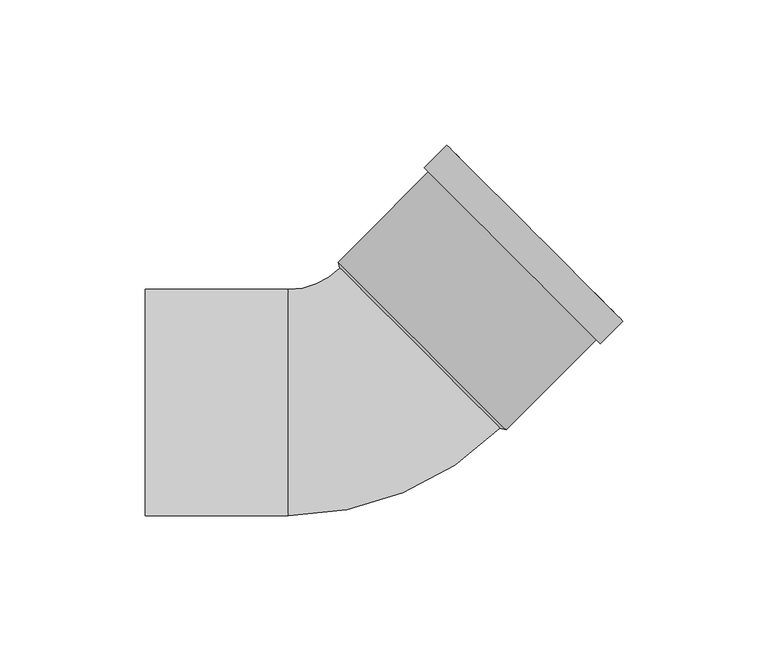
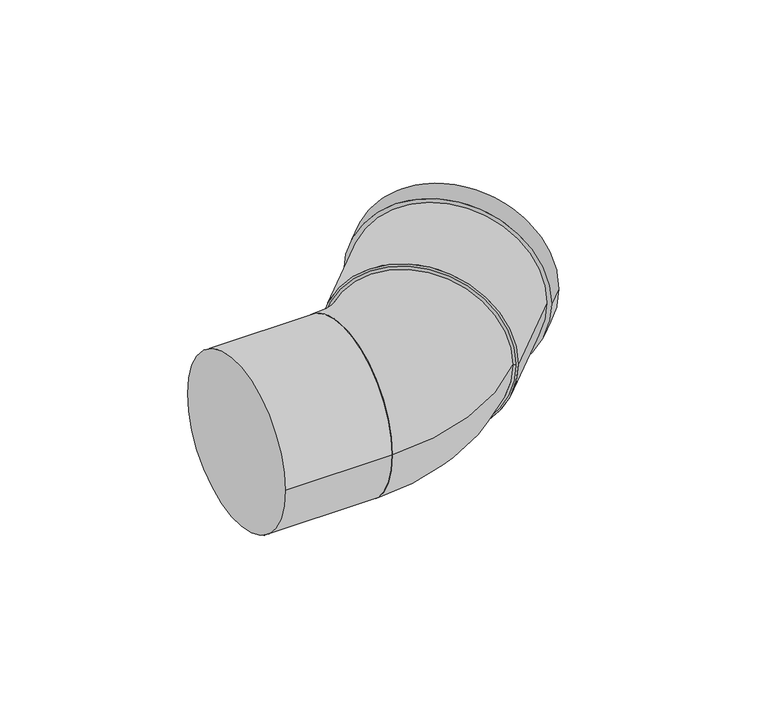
"""IFC4 building model written with IfcOpenShell, lengths in millimetres: pipe fitting geometry, Superdrain SKB Bend : Superdrain SKB Bend."""

from ifc_helpers import new_model, si_unit, point, frame, origin, origin_2d, place, context, project, spatial, polyline, circle_curve, ellipse_curve, trimmed, segment, composite_curve, outline, extrude, source, transform, mapped, element, save
from ifc_brep_helpers import plane_surface, revolved_surface, advanced_brep


def pipe_fitting_d92faa6e(model_context):
    return source(origin(), model_context, "Body", "SolidModel", [
        advanced_brep(
        [(46.3862048, -8.7681241, 0.0), (-8.7681241, 46.3862048, 0.0), (-26.6, -39.0, 0.0), (-26.6, 39.0, 0.0)],
        [
            (0, 1, circle_curve(frame((18.8090404, 18.8090404, 0.0), z_axis=(0.7071067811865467, 0.7071067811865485, 0.0), x_axis=(-0.7071067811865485, 0.7071067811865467, 0.0)), 39.0)),
            (1, 0, circle_curve(frame((18.8090404, 18.8090404, 0.0), z_axis=(0.7071067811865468, 0.7071067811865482, 0.0), x_axis=(-0.7071067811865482, 0.7071067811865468, 0.0)), 39.0)),
            (2, 3, circle_curve(frame((-26.6, 0.0, 0.0), z_axis=(-1.0, 0.0, 0.0), x_axis=(0.0, 1.0, 0.0)), 39.0)),
            (3, 2, circle_curve(frame((-26.6, 0.0, 0.0), z_axis=(-1.0, 0.0, 0.0), x_axis=(0.0, 1.0, 0.0)), 39.0)),
            (3, 1, circle_curve(frame((-26.6, 64.2180808, 0.0), z_axis=(0.0, 0.0, 1.0), x_axis=(1.0, 0.0, 0.0)), 25.2180808)),
            (0, 2, circle_curve(frame((-26.6, 64.2180808, 0.0), z_axis=(0.0, 0.0, -1.0), x_axis=(1.0, 0.0, 0.0)), 103.2180808)),
        ],
        [
            plane_surface(frame((18.8090404, 18.8090404, 0.0), z_axis=(0.7071067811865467, 0.7071067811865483, 0.0), x_axis=(0.0, 0.0, -1.0))),
            plane_surface(frame((-26.6, 0.0, 0.0), z_axis=(-1.0, 0.0, 0.0), x_axis=(0.0, 0.0, -1.0))),
            revolved_surface(trimmed(ellipse_curve(frame((37.6180808, 64.2180808, 0.0), z_axis=(0.0, -1.0, 0.0), x_axis=(-1.0, 0.0, 0.0)), 39.0, 39.0), [point((-1.3819192, 64.2180808, 0.0))], [point((76.6180808, 64.2180808, 0.0))], True, "CARTESIAN"), (-26.6, 64.2180808, 0.0), (0.0, 0.0, 1.0)),
            revolved_surface(trimmed(ellipse_curve(frame((37.6180808, 64.2180808, 0.0), z_axis=(0.0, -1.0, 0.0), x_axis=(-1.0, 0.0, 0.0)), 39.0, 39.0), [point((76.6180808, 64.2180808, 0.0))], [point((-1.3819192, 64.2180808, 0.0))], True, "CARTESIAN"), (-26.6, 64.2180808, 0.0), (0.0, 0.0, 1.0)),
        ],
        [
            (0, [[1, 2]]),
            (1, [[3, 4]]),
            (2, [[-4, 5, -1, 6]]),
            (3, [[-3, -6, -2, -5]]),
        ],
    ),
        extrude(outline(composite_curve([segment(trimmed(circle_curve(origin_2d(), 40.95), [point((0.0, 40.95))], [point((0.0, -40.95))], False, "CARTESIAN"), True, "CONTINUOUS"), segment(trimmed(circle_curve(origin_2d(), 40.95), [point((0.0, -40.95))], [point((0.0, 40.95))], False, "CARTESIAN"), True, "CONTINUOUS")], self_intersect=False), holes=[composite_curve([segment(trimmed(circle_curve(origin_2d(), 39.0), [point((0.0, 39.0))], [point((0.0, -39.0))], True, "CARTESIAN"), True, "CONTINUOUS"), segment(trimmed(circle_curve(origin_2d(), 39.0), [point((0.0, -39.0))], [point((0.0, 39.0))], True, "CARTESIAN"), True, "CONTINUOUS")], self_intersect=False)]), frame((19.5161472, 19.5161472, 0.0), z_axis=(0.7071067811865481, 0.707106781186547, 0.0), x_axis=(0.0, 0.0, 1.0)), (0.0, 0.0, 1.0), 55.0),
        extrude(outline(composite_curve([segment(trimmed(circle_curve(origin_2d(), 42.9975), [point((0.0, -42.9975))], [point((0.0, 42.9975))], False, "CARTESIAN"), True, "CONTINUOUS"), segment(trimmed(circle_curve(origin_2d(), 42.9975), [point((0.0, 42.9975))], [point((0.0, -42.9975))], False, "CARTESIAN"), True, "CONTINUOUS")], self_intersect=False), holes=[composite_curve([segment(trimmed(circle_curve(origin_2d(), 39.0), [point((0.0, -39.0))], [point((0.0, 39.0))], True, "CARTESIAN"), True, "CONTINUOUS"), segment(trimmed(circle_curve(origin_2d(), 39.0), [point((0.0, 39.0))], [point((0.0, -39.0))], True, "CARTESIAN"), True, "CONTINUOUS")], self_intersect=False)]), frame((50.6288455, 50.6288455, 0.0), z_axis=(0.7071067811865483, 0.7071067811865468, 0.0), x_axis=(0.0, 0.0, 1.0)), (0.0, 0.0, 1.0), 11.0),
        advanced_brep(
        [(48.4721699, -9.4398755, 0.0), (-9.4398755, 48.4721699, 0.0), (46.3862048, -8.7681241, 0.0), (-8.7681241, 46.3862048, 0.0)],
        [
            (0, 1, circle_curve(frame((19.5161472, 19.5161472, 0.0), z_axis=(0.7071067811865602, 0.7071067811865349, 0.0), x_axis=(0.7071067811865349, -0.7071067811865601, 0.0)), 40.95)),
            (1, 0, circle_curve(frame((19.5161472, 19.5161472, 0.0), z_axis=(0.7071067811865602, 0.7071067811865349, 0.0), x_axis=(-0.7071067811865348, 0.7071067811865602, 0.0)), 40.95)),
            (2, 3, circle_curve(frame((18.8090404, 18.8090404, 0.0), z_axis=(-0.7071067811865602, -0.7071067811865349, 0.0), x_axis=(-0.7071067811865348, 0.7071067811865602, 0.0)), 39.0)),
            (3, 2, circle_curve(frame((18.8090404, 18.8090404, 0.0), z_axis=(-0.7071067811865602, -0.7071067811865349, 0.0), x_axis=(0.7071067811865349, -0.7071067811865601, 0.0)), 39.0)),
            (3, 1),
            (0, 2),
        ],
        [
            plane_surface(frame((19.5161472, 19.5161472, 0.0), z_axis=(0.7071067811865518, 0.7071067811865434, 0.0), x_axis=(0.0, 0.0, -1.0))),
            plane_surface(frame((18.8090404, 18.8090404, 0.0), z_axis=(-0.7071067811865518, -0.7071067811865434, 0.0), x_axis=(0.0, 0.0, -1.0))),
            revolved_surface(polyline([(-8.768123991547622, 46.386204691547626, 0.0), (-9.439875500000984, 48.47216990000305, 0.0)]), (4.6669048, 4.6669048, 0.0), (0.7071067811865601, 0.7071067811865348, 0.0)),
            revolved_surface(polyline([(46.38620469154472, -8.768123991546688, 0.0), (48.4721699, -9.4398755, 0.0)]), (4.6669048, 4.6669048, 0.0), (0.7071067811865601, 0.7071067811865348, 0.0)),
        ],
        [
            (0, [[1, 2]]),
            (1, [[3, 4]]),
            (2, [[-4, 5, -1, 6]]),
            (3, [[-3, -6, -2, -5]]),
        ],
    ),
        extrude(outline(composite_curve([segment(trimmed(circle_curve(origin_2d(), 39.0), [point((-39.0, 0.0))], [point((39.0, 0.0))], False, "CARTESIAN"), True, "CONTINUOUS"), segment(trimmed(circle_curve(origin_2d(), 39.0), [point((39.0, 0.0))], [point((-39.0, 0.0))], False, "CARTESIAN"), True, "CONTINUOUS")], self_intersect=False)), frame((-76.0, 0.0, 0.0), z_axis=(1.0, 0.0, 0.0), x_axis=(0.0, 1.0, 0.0)), (0.0, 0.0, 1.0), 49.4),
    ])


if __name__ == "__main__":
    model = new_model("IFC4")
    model_context = context("Model", 3, world=origin())
    ifc_project = project(units=[si_unit("LENGTHUNIT", "METRE", prefix="MILLI")], contexts=[model_context])
    site = spatial("IfcSite", under=ifc_project)
    building = spatial("IfcBuilding", under=site)
    placement = place(None, origin())
    pipe_fitting_shape = pipe_fitting_d92faa6e(model_context)
    element("IfcPipeFitting", 1, ObjectType="Superdrain SKB Bend : Superdrain SKB Bend", at=placement, inside=building, context=model_context, shape_type="MappedRepresentation", body=[
        mapped(pipe_fitting_shape, transform((0.0, 0.0, 0.0), x_axis=(1.0, 0.0, 0.0), y_axis=(0.0, 1.0, 0.0), z_axis=(0.0, 0.0, 1.0))),
    ])
    save(model, "model.ifc")
